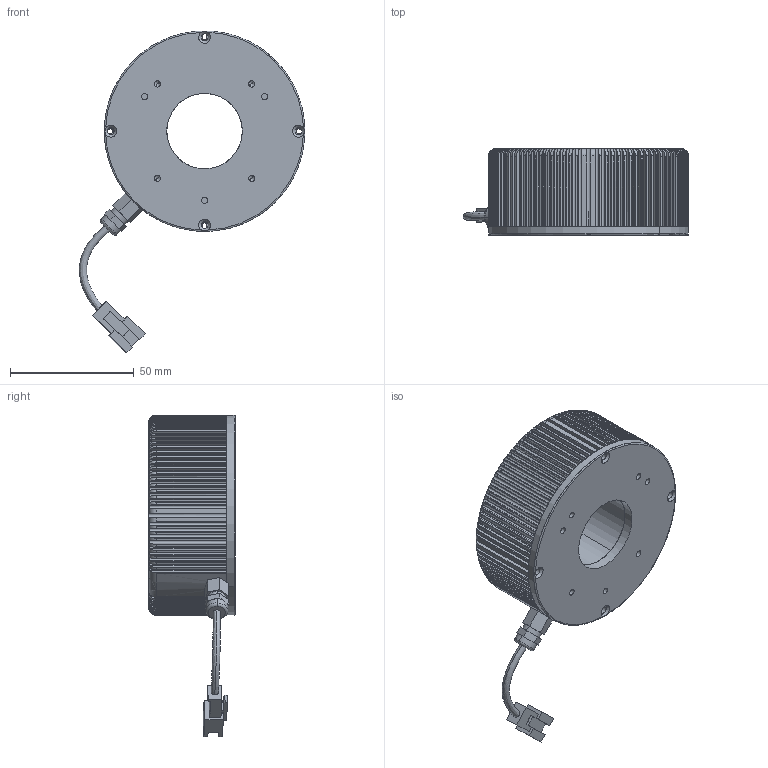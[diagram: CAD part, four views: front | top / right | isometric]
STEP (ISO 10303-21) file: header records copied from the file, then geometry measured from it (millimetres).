
FILE_DESCRIPTION (( 'STEP AP214' ), '1' );
FILE_NAME ('DLR3-45-080-1-X-24V-ASSEMBLY.STEP', '2017-01-17T03:20:36', ( '' ), ( '' ), 'SwSTEP 2.0', 'SolidWorks 2016', '' );
FILE_SCHEMA (( 'AUTOMOTIVE_DESIGN' ));
Length unit declared in the file: millimetre
Products named in the file (10): 24V CONNECTER; CANNET SHOT; DLR3-45-080-1-X-24V-ASSEMBLY; DLR3-45-080-BASE PLATE; DLR3-45-080-X-X-24V-BUSH; DLR3-45-080; CABLE 3MM; DLR2-60-070-PCB; 24V CABLE___; DLR3-45-080-DIFFUSER SHAPE
Assembly tree (9 placements, depth 3):
  DLR3-45-080-1-X-24V-ASSEMBLY
    DLR3-45-080
    DLR3-45-080-DIFFUSER SHAPE
    24V CABLE___
      CABLE 3MM
      24V CONNECTER
      CANNET SHOT
    DLR3-45-080-BASE PLATE
    DLR3-45-080-X-X-24V-BUSH
    DLR2-60-070-PCB
Bounding box: 91.15 x 35 x 130.17 mm (x, y, z)
Volume: 66081.9 mm3; surface area: 58987.8 mm2
Topology: 8 solids, 8 shells, 858 faces, 2448 edges, 1612 vertices
Faces by surface type: cylinder 519, plane 300, cone 22, torus 12, bspline 5
Entity records: 32377 total; most frequent: CARTESIAN_POINT 9845, ORIENTED_EDGE 4880, DIRECTION 4334, EDGE_CURVE 2440, VERTEX_POINT 1612, AXIS2_PLACEMENT_3D 1601, LINE 1132, VECTOR 1132
